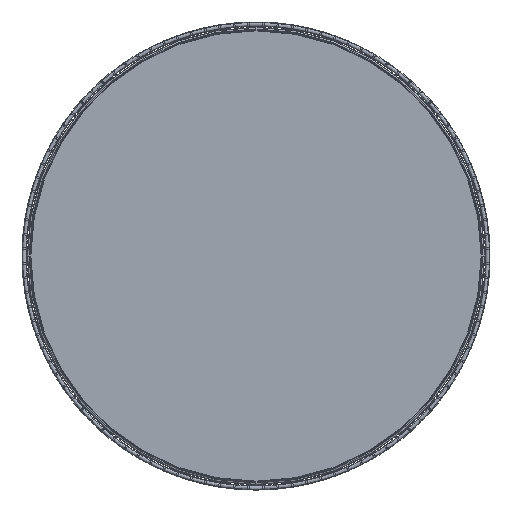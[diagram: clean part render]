
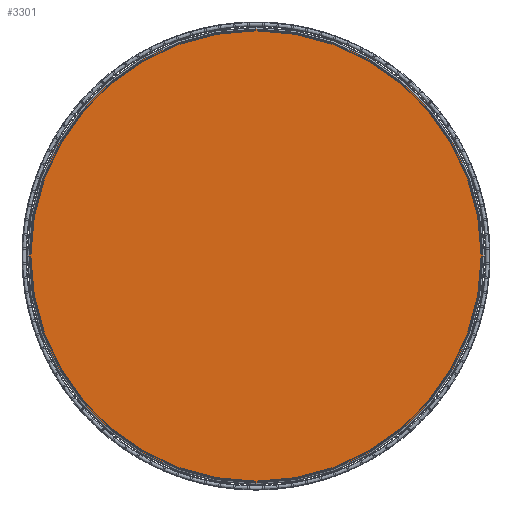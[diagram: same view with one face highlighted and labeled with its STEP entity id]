
A CAD part, front view. The second image highlights one B-rep face of the part: STEP entity #3301.
In plain terms, the highlighted planar face has unit normal (0, -1, 0).
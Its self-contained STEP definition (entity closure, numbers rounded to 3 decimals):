
#380 = CARTESIAN_POINT ( 'NONE',  ( 0., -2.4, 0. ) ) ;
#626 = DIRECTION ( 'NONE',  ( 0., 1., 0. ) ) ;
#645 = VERTEX_POINT ( 'NONE', #2622 ) ;
#771 = DIRECTION ( 'NONE',  ( 0., -1., 0. ) ) ;
#1554 = ORIENTED_EDGE ( 'NONE', *, *, #5803, .F. ) ;
#2079 = DIRECTION ( 'NONE',  ( 0., 0., 1. ) ) ;
#2113 = CIRCLE ( 'NONE', #6439, 292. ) ;
#2233 = DIRECTION ( 'NONE',  ( 0., 0., 1. ) ) ;
#2568 = EDGE_CURVE ( 'NONE', #645, #3959, #2706, .T. ) ;
#2606 = AXIS2_PLACEMENT_3D ( 'NONE', #380, #771, #4105 ) ;
#2622 = CARTESIAN_POINT ( 'NONE',  ( 0., -2.4, 292. ) ) ;
#2696 = CARTESIAN_POINT ( 'NONE',  ( 0., -2.4, 0. ) ) ;
#2706 = CIRCLE ( 'NONE', #6581, 292. ) ;
#3054 = FACE_OUTER_BOUND ( 'NONE', #4409, .T. ) ;
#3102 = DIRECTION ( 'NONE',  ( 0., 1., 0. ) ) ;
#3301 = ADVANCED_FACE ( 'NONE', ( #3054 ), #3442, .T. ) ;
#3442 = PLANE ( 'NONE',  #2606 ) ;
#3959 = VERTEX_POINT ( 'NONE', #6610 ) ;
#4105 = DIRECTION ( 'NONE',  ( 0., 0., -1. ) ) ;
#4409 = EDGE_LOOP ( 'NONE', ( #5067, #1554 ) ) ;
#4783 = CARTESIAN_POINT ( 'NONE',  ( 0., -2.4, 0. ) ) ;
#5067 = ORIENTED_EDGE ( 'NONE', *, *, #2568, .F. ) ;
#5803 = EDGE_CURVE ( 'NONE', #3959, #645, #2113, .T. ) ;
#6439 = AXIS2_PLACEMENT_3D ( 'NONE', #4783, #3102, #2079 ) ;
#6581 = AXIS2_PLACEMENT_3D ( 'NONE', #2696, #626, #2233 ) ;
#6610 = CARTESIAN_POINT ( 'NONE',  ( 0., -2.4, -292. ) ) ;
